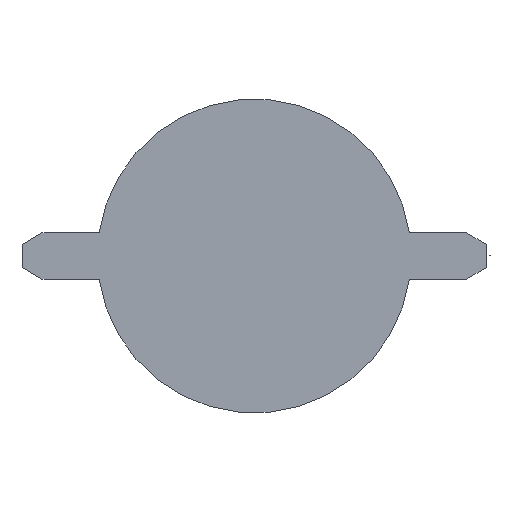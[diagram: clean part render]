
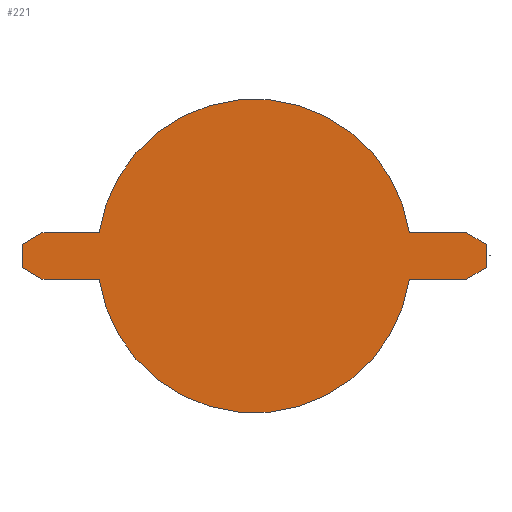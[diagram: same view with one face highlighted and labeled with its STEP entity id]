
A CAD part, left-side view. The second image highlights one B-rep face of the part: STEP entity #221.
In plain terms, the highlighted planar face has unit normal (-1, 0, 0).
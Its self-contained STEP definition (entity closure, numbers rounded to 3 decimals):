
#221=ADVANCED_FACE('',(#439),#440,.T.);
#439=FACE_OUTER_BOUND('',#657,.T.);
#440=PLANE('',#658);
#657=EDGE_LOOP('',(#1202,#1203,#1204,#1205,#1206,#1207,#1208,#1209));
#658=AXIS2_PLACEMENT_3D('',#1210,#1211,#1212);
#1202=ORIENTED_EDGE('',*,*,#1461,.T.);
#1203=ORIENTED_EDGE('',*,*,#1449,.T.);
#1204=ORIENTED_EDGE('',*,*,#1464,.T.);
#1205=ORIENTED_EDGE('',*,*,#1467,.T.);
#1206=ORIENTED_EDGE('',*,*,#1468,.T.);
#1207=ORIENTED_EDGE('',*,*,#1469,.T.);
#1208=ORIENTED_EDGE('',*,*,#1452,.T.);
#1209=ORIENTED_EDGE('',*,*,#1457,.T.);
#1210=CARTESIAN_POINT('',(-476.0,0.,0.));
#1211=DIRECTION('',(-1.0,0.,0.));
#1212=DIRECTION('',(0.,0.,-1.0));
#1449=EDGE_CURVE('',#1767,#1772,#1774,.T.);
#1452=EDGE_CURVE('',#1779,#1776,#1780,.T.);
#1457=EDGE_CURVE('',#1776,#1786,#1788,.T.);
#1461=EDGE_CURVE('',#1786,#1767,#1792,.T.);
#1464=EDGE_CURVE('',#1772,#1794,#1797,.T.);
#1467=EDGE_CURVE('',#1794,#1800,#1801,.T.);
#1468=EDGE_CURVE('',#1800,#1802,#1803,.T.);
#1469=EDGE_CURVE('',#1802,#1779,#1804,.T.);
#1767=VERTEX_POINT('',#2201);
#1772=VERTEX_POINT('',#2208);
#1774=LINE('',#2211,#2212);
#1776=VERTEX_POINT('',#2214);
#1779=VERTEX_POINT('',#2218);
#1780=CIRCLE('',#2219,0.294);
#1786=VERTEX_POINT('',#2226);
#1788=LINE('',#2229,#2230);
#1792=CIRCLE('',#2235,2.0);
#1794=VERTEX_POINT('',#2237);
#1797=CIRCLE('',#2241,0.294);
#1800=VERTEX_POINT('',#2244);
#1801=LINE('',#2245,#2246);
#1802=VERTEX_POINT('',#2247);
#1803=CIRCLE('',#2248,2.0);
#1804=LINE('',#2249,#2250);
#2201=CARTESIAN_POINT('',(-476.0,-1.978,-0.294));
#2208=CARTESIAN_POINT('',(-476.0,-2.706,-0.294));
#2211=CARTESIAN_POINT('',(-476.0,-2.706,-0.294));
#2212=VECTOR('',#2488,10.0);
#2214=CARTESIAN_POINT('',(-476.0,2.706,-0.294));
#2218=CARTESIAN_POINT('',(-476.0,2.706,0.294));
#2219=AXIS2_PLACEMENT_3D('',#2490,#2491,#2492);
#2226=CARTESIAN_POINT('',(-476.0,1.978,-0.294));
#2229=CARTESIAN_POINT('',(-476.0,-2.706,-0.294));
#2230=VECTOR('',#2498,10.0);
#2235=AXIS2_PLACEMENT_3D('',#2503,#2504,#2505);
#2237=CARTESIAN_POINT('',(-476.0,-2.706,0.294));
#2241=AXIS2_PLACEMENT_3D('',#2507,#2508,#2509);
#2244=CARTESIAN_POINT('',(-476.0,-1.978,0.294));
#2245=CARTESIAN_POINT('',(-476.0,2.706,0.294));
#2246=VECTOR('',#2513,10.0);
#2247=CARTESIAN_POINT('',(-476.0,1.978,0.294));
#2248=AXIS2_PLACEMENT_3D('',#2514,#2515,#2516);
#2249=CARTESIAN_POINT('',(-476.0,2.706,0.294));
#2250=VECTOR('',#2517,10.0);
#2488=DIRECTION('',(0.,-1.0,0.));
#2490=CARTESIAN_POINT('',(-476.0,2.706,0.));
#2491=DIRECTION('',(-1.0,0.,0.));
#2492=DIRECTION('',(0.,0.0,-1.0));
#2498=DIRECTION('',(0.,-1.0,0.));
#2503=CARTESIAN_POINT('',(-476.0,0.,0.));
#2504=DIRECTION('',(-1.0,0.,0.));
#2505=DIRECTION('',(0.,-1.0,0.0));
#2507=CARTESIAN_POINT('',(-476.0,-2.706,0.));
#2508=DIRECTION('',(-1.0,0.,0.));
#2509=DIRECTION('',(0.,0.0,1.0));
#2513=DIRECTION('',(0.,1.0,0.));
#2514=CARTESIAN_POINT('',(-476.0,0.,0.));
#2515=DIRECTION('',(-1.0,0.,0.));
#2516=DIRECTION('',(0.,-1.0,0.0));
#2517=DIRECTION('',(0.,1.0,0.));
